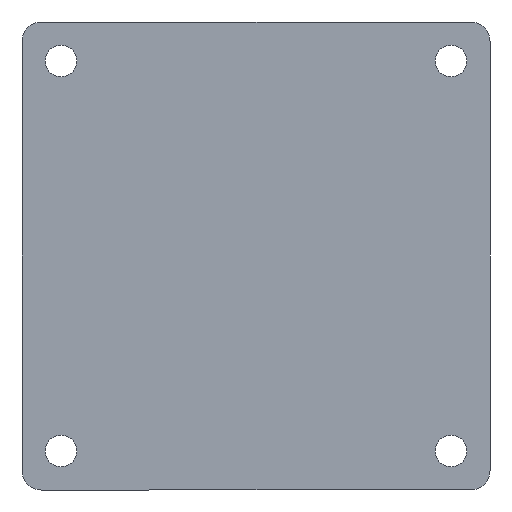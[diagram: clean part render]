
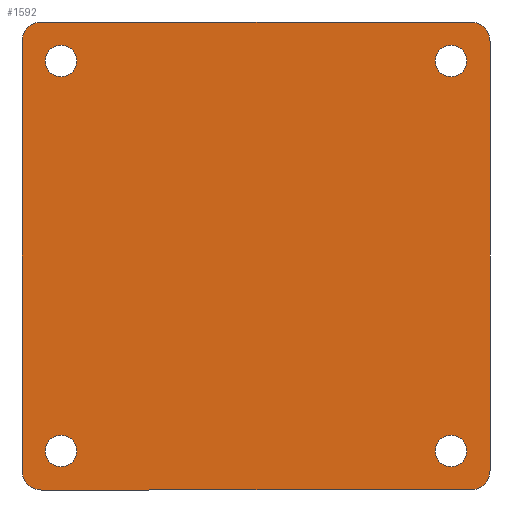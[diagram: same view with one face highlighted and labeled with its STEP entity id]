
A CAD part, front view. The second image highlights one B-rep face of the part: STEP entity #1592.
In plain terms, the highlighted planar face has unit normal (0, -1, 0) as drawn and (0, 0, -1) by its records, which use the part's own axes.
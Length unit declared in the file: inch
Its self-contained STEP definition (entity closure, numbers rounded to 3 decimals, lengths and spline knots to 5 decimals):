
#179 = DIRECTION ( 'NONE',  ( 0., 0., 1. ) ) ;
#183 = CARTESIAN_POINT ( 'NONE',  ( 0.5, -5.5, -0.3125 ) ) ;
#184 = CARTESIAN_POINT ( 'NONE',  ( 5.5, -5.5, -0.3125 ) ) ;
#190 = DIRECTION ( 'NONE',  ( 1., 0., 0. ) ) ;
#192 = DIRECTION ( 'NONE',  ( 0., 0., 1. ) ) ;
#194 = CARTESIAN_POINT ( 'NONE',  ( 5.5, -0.5, -0.3125 ) ) ;
#196 = CARTESIAN_POINT ( 'NONE',  ( 0., 0., -0.3125 ) ) ;
#199 = DIRECTION ( 'NONE',  ( 1., 0., 0. ) ) ;
#201 = DIRECTION ( 'NONE',  ( -1., 0., 0. ) ) ;
#204 = CARTESIAN_POINT ( 'NONE',  ( 0.5, -0.5, -0.3125 ) ) ;
#205 = DIRECTION ( 'NONE',  ( 0., 0., 1. ) ) ;
#206 = DIRECTION ( 'NONE',  ( 0., 0., 1. ) ) ;
#207 = DIRECTION ( 'NONE',  ( 1., 0., 0. ) ) ;
#210 = DIRECTION ( 'NONE',  ( 1., 0., 0. ) ) ;
#217 = CARTESIAN_POINT ( 'NONE',  ( 6., -5.75, -0.3125 ) ) ;
#223 = CARTESIAN_POINT ( 'NONE',  ( 0., -5.75, -0.3125 ) ) ;
#225 = CARTESIAN_POINT ( 'NONE',  ( 0.297, -5.5, -0.3125 ) ) ;
#231 = CARTESIAN_POINT ( 'NONE',  ( 0.703, -5.5, -0.3125 ) ) ;
#235 = CARTESIAN_POINT ( 'NONE',  ( 5.703, -0.5, -0.3125 ) ) ;
#237 = CARTESIAN_POINT ( 'NONE',  ( 5.75, 0., -0.3125 ) ) ;
#238 = CARTESIAN_POINT ( 'NONE',  ( 5.703, -5.5, -0.3125 ) ) ;
#244 = CARTESIAN_POINT ( 'NONE',  ( 5.75, -6., -0.3125 ) ) ;
#245 = CARTESIAN_POINT ( 'NONE',  ( 0.297, -0.5, -0.3125 ) ) ;
#248 = CARTESIAN_POINT ( 'NONE',  ( 0.25, 0., -0.3125 ) ) ;
#265 = CARTESIAN_POINT ( 'NONE',  ( 6., -0.25, -0.3125 ) ) ;
#269 = CARTESIAN_POINT ( 'NONE',  ( 0.25, -6., -0.3125 ) ) ;
#271 = CARTESIAN_POINT ( 'NONE',  ( 0., -0.25, -0.3125 ) ) ;
#272 = CARTESIAN_POINT ( 'NONE',  ( 5.297, -5.5, -0.3125 ) ) ;
#275 = CARTESIAN_POINT ( 'NONE',  ( 5.297, -0.5, -0.3125 ) ) ;
#276 = CARTESIAN_POINT ( 'NONE',  ( 0.703, -0.5, -0.3125 ) ) ;
#287 = DIRECTION ( 'NONE',  ( 1., 0., 0. ) ) ;
#293 = CARTESIAN_POINT ( 'NONE',  ( 5.75, -0.25, -0.3125 ) ) ;
#323 = CARTESIAN_POINT ( 'NONE',  ( 0.25, -5.75, -0.3125 ) ) ;
#327 = DIRECTION ( 'NONE',  ( 0., 0., -1. ) ) ;
#328 = DIRECTION ( 'NONE',  ( 0., 0., -1. ) ) ;
#329 = DIRECTION ( 'NONE',  ( 1., 0., 0. ) ) ;
#560 = VECTOR ( 'NONE', #2507, 39.37008 ) ;
#588 = LINE ( 'NONE', #2501, #560 ) ;
#595 = CIRCLE ( 'NONE', #1950, 0.203 ) ;
#597 = CIRCLE ( 'NONE', #1941, 0.25 ) ;
#604 = CIRCLE ( 'NONE', #1992, 0.203 ) ;
#609 = LINE ( 'NONE', #2573, #612 ) ;
#612 = VECTOR ( 'NONE', #2546, 39.37008 ) ;
#626 = CIRCLE ( 'NONE', #1984, 0.203 ) ;
#654 = CIRCLE ( 'NONE', #1989, 0.203 ) ;
#659 = CIRCLE ( 'NONE', #2009, 0.203 ) ;
#664 = CIRCLE ( 'NONE', #1975, 0.203 ) ;
#666 = CIRCLE ( 'NONE', #1968, 0.203 ) ;
#683 = LINE ( 'NONE', #196, #710 ) ;
#704 = CIRCLE ( 'NONE', #1980, 0.25 ) ;
#706 = CIRCLE ( 'NONE', #1977, 0.25 ) ;
#710 = VECTOR ( 'NONE', #201, 39.37008 ) ;
#769 = ORIENTED_EDGE ( 'NONE', *, *, #2784, .T. ) ;
#771 = ORIENTED_EDGE ( 'NONE', *, *, #1831, .F. ) ;
#780 = ORIENTED_EDGE ( 'NONE', *, *, #1825, .T. ) ;
#781 = ORIENTED_EDGE ( 'NONE', *, *, #2065, .T. ) ;
#785 = ORIENTED_EDGE ( 'NONE', *, *, #2068, .T. ) ;
#790 = ORIENTED_EDGE ( 'NONE', *, *, #2785, .T. ) ;
#791 = ORIENTED_EDGE ( 'NONE', *, *, #959, .T. ) ;
#796 = ORIENTED_EDGE ( 'NONE', *, *, #1813, .F. ) ;
#803 = ORIENTED_EDGE ( 'NONE', *, *, #1838, .T. ) ;
#804 = ORIENTED_EDGE ( 'NONE', *, *, #956, .T. ) ;
#806 = ORIENTED_EDGE ( 'NONE', *, *, #953, .F. ) ;
#809 = ORIENTED_EDGE ( 'NONE', *, *, #1782, .T. ) ;
#816 = ORIENTED_EDGE ( 'NONE', *, *, #2069, .F. ) ;
#824 = VECTOR ( 'NONE', #1038, 39.37008 ) ;
#843 = FACE_BOUND ( 'NONE', #2251, .T. ) ;
#866 = CIRCLE ( 'NONE', #1846, 0.203 ) ;
#875 = CIRCLE ( 'NONE', #1885, 0.25 ) ;
#880 = LINE ( 'NONE', #1036, #824 ) ;
#898 = FACE_BOUND ( 'NONE', #2281, .T. ) ;
#913 = FACE_BOUND ( 'NONE', #2283, .T. ) ;
#919 = FACE_BOUND ( 'NONE', #2293, .T. ) ;
#933 = FACE_OUTER_BOUND ( 'NONE', #2261, .T. ) ;
#953 = EDGE_CURVE ( 'NONE', #2178, #2154, #880, .T. ) ;
#956 = EDGE_CURVE ( 'NONE', #2182, #2158, #875, .T. ) ;
#959 = EDGE_CURVE ( 'NONE', #2163, #2180, #866, .T. ) ;
#1031 = PLANE ( 'NONE',  #1933 ) ;
#1032 = CARTESIAN_POINT ( 'NONE',  ( 0., 0., -0.3125 ) ) ;
#1033 = DIRECTION ( 'NONE',  ( 0., 0., 1. ) ) ;
#1035 = DIRECTION ( 'NONE',  ( 1., 0., 0. ) ) ;
#1036 = CARTESIAN_POINT ( 'NONE',  ( 0., -6., -0.3125 ) ) ;
#1038 = DIRECTION ( 'NONE',  ( 1., 0., 0. ) ) ;
#1039 = DIRECTION ( 'NONE',  ( 1., 0., 0. ) ) ;
#1040 = DIRECTION ( 'NONE',  ( 0., 0., -1. ) ) ;
#1042 = CARTESIAN_POINT ( 'NONE',  ( 0.5, -5.5, -0.3125 ) ) ;
#1046 = DIRECTION ( 'NONE',  ( 0., 0., 1. ) ) ;
#1049 = DIRECTION ( 'NONE',  ( 1., 0., 0. ) ) ;
#1051 = CARTESIAN_POINT ( 'NONE',  ( 0.25, -0.25, -0.3125 ) ) ;
#1592 = ADVANCED_FACE ( 'NONE', ( #919, #913, #843, #898, #933 ), #1031, .F. ) ;
#1737 = DIRECTION ( 'NONE',  ( 0., 0., 1. ) ) ;
#1739 = CARTESIAN_POINT ( 'NONE',  ( 5.5, -0.5, -0.3125 ) ) ;
#1748 = DIRECTION ( 'NONE',  ( 1., 0., 0. ) ) ;
#1782 = EDGE_CURVE ( 'NONE', #2179, #2169, #595, .T. ) ;
#1798 = EDGE_CURVE ( 'NONE', #2150, #2154, #597, .T. ) ;
#1813 = EDGE_CURVE ( 'NONE', #2182, #2174, #588, .T. ) ;
#1825 = EDGE_CURVE ( 'NONE', #2164, #2160, #604, .T. ) ;
#1831 = EDGE_CURVE ( 'NONE', #2150, #2173, #609, .T. ) ;
#1838 = EDGE_CURVE ( 'NONE', #2165, #2145, #626, .T. ) ;
#1846 = AXIS2_PLACEMENT_3D ( 'NONE', #1042, #1046, #1049 ) ;
#1885 = AXIS2_PLACEMENT_3D ( 'NONE', #1051, #1040, #1039 ) ;
#1933 = AXIS2_PLACEMENT_3D ( 'NONE', #1032, #1033, #1035 ) ;
#1941 = AXIS2_PLACEMENT_3D ( 'NONE', #2780, #2761, #2764 ) ;
#1950 = AXIS2_PLACEMENT_3D ( 'NONE', #2711, #2719, #2751 ) ;
#1968 = AXIS2_PLACEMENT_3D ( 'NONE', #184, #192, #210 ) ;
#1975 = AXIS2_PLACEMENT_3D ( 'NONE', #183, #179, #199 ) ;
#1977 = AXIS2_PLACEMENT_3D ( 'NONE', #323, #328, #329 ) ;
#1980 = AXIS2_PLACEMENT_3D ( 'NONE', #293, #327, #287 ) ;
#1984 = AXIS2_PLACEMENT_3D ( 'NONE', #1739, #1737, #1748 ) ;
#1989 = AXIS2_PLACEMENT_3D ( 'NONE', #204, #205, #207 ) ;
#1992 = AXIS2_PLACEMENT_3D ( 'NONE', #2554, #2540, #2551 ) ;
#2009 = AXIS2_PLACEMENT_3D ( 'NONE', #194, #206, #190 ) ;
#2059 = EDGE_CURVE ( 'NONE', #2180, #2163, #664, .T. ) ;
#2064 = EDGE_CURVE ( 'NONE', #2160, #2164, #666, .T. ) ;
#2065 = EDGE_CURVE ( 'NONE', #2145, #2165, #659, .T. ) ;
#2068 = EDGE_CURVE ( 'NONE', #2169, #2179, #654, .T. ) ;
#2069 = EDGE_CURVE ( 'NONE', #2177, #2158, #683, .T. ) ;
#2071 = ORIENTED_EDGE ( 'NONE', *, *, #2059, .T. ) ;
#2104 = ORIENTED_EDGE ( 'NONE', *, *, #1798, .T. ) ;
#2142 = ORIENTED_EDGE ( 'NONE', *, *, #2064, .T. ) ;
#2145 = VERTEX_POINT ( 'NONE', #235 ) ;
#2150 = VERTEX_POINT ( 'NONE', #217 ) ;
#2154 = VERTEX_POINT ( 'NONE', #244 ) ;
#2158 = VERTEX_POINT ( 'NONE', #248 ) ;
#2160 = VERTEX_POINT ( 'NONE', #238 ) ;
#2163 = VERTEX_POINT ( 'NONE', #225 ) ;
#2164 = VERTEX_POINT ( 'NONE', #272 ) ;
#2165 = VERTEX_POINT ( 'NONE', #275 ) ;
#2169 = VERTEX_POINT ( 'NONE', #276 ) ;
#2173 = VERTEX_POINT ( 'NONE', #265 ) ;
#2174 = VERTEX_POINT ( 'NONE', #223 ) ;
#2177 = VERTEX_POINT ( 'NONE', #237 ) ;
#2178 = VERTEX_POINT ( 'NONE', #269 ) ;
#2179 = VERTEX_POINT ( 'NONE', #245 ) ;
#2180 = VERTEX_POINT ( 'NONE', #231 ) ;
#2182 = VERTEX_POINT ( 'NONE', #271 ) ;
#2251 = EDGE_LOOP ( 'NONE', ( #781, #803 ) ) ;
#2261 = EDGE_LOOP ( 'NONE', ( #806, #790, #796, #804, #816, #769, #771, #2104 ) ) ;
#2281 = EDGE_LOOP ( 'NONE', ( #785, #809 ) ) ;
#2283 = EDGE_LOOP ( 'NONE', ( #2142, #780 ) ) ;
#2293 = EDGE_LOOP ( 'NONE', ( #2071, #791 ) ) ;
#2501 = CARTESIAN_POINT ( 'NONE',  ( 0., 0., -0.3125 ) ) ;
#2507 = DIRECTION ( 'NONE',  ( 0., -1., 0. ) ) ;
#2540 = DIRECTION ( 'NONE',  ( 0., 0., 1. ) ) ;
#2546 = DIRECTION ( 'NONE',  ( 0., 1., 0. ) ) ;
#2551 = DIRECTION ( 'NONE',  ( 1., 0., 0. ) ) ;
#2554 = CARTESIAN_POINT ( 'NONE',  ( 5.5, -5.5, -0.3125 ) ) ;
#2573 = CARTESIAN_POINT ( 'NONE',  ( 6., 0., -0.3125 ) ) ;
#2711 = CARTESIAN_POINT ( 'NONE',  ( 0.5, -0.5, -0.3125 ) ) ;
#2719 = DIRECTION ( 'NONE',  ( 0., 0., 1. ) ) ;
#2751 = DIRECTION ( 'NONE',  ( 1., 0., 0. ) ) ;
#2761 = DIRECTION ( 'NONE',  ( 0., 0., -1. ) ) ;
#2764 = DIRECTION ( 'NONE',  ( 1., 0., 0. ) ) ;
#2780 = CARTESIAN_POINT ( 'NONE',  ( 5.75, -5.75, -0.3125 ) ) ;
#2784 = EDGE_CURVE ( 'NONE', #2177, #2173, #704, .T. ) ;
#2785 = EDGE_CURVE ( 'NONE', #2178, #2174, #706, .T. ) ;
